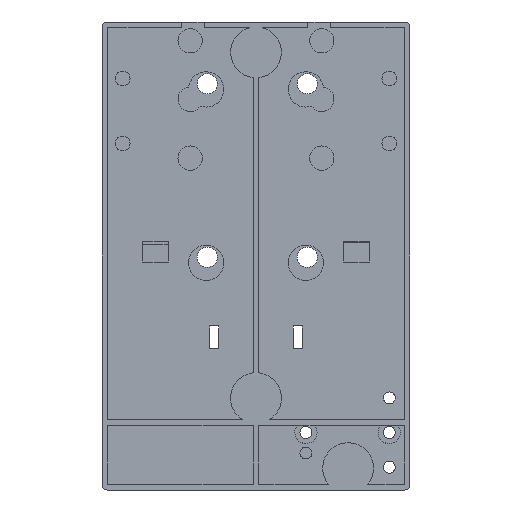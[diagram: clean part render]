
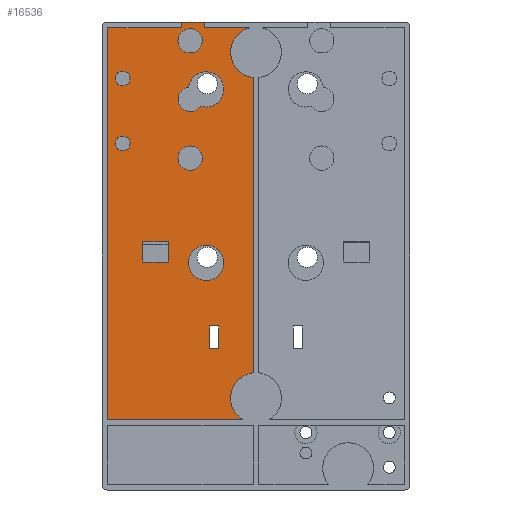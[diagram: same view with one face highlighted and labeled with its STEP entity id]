
A CAD part, front view. The second image highlights one B-rep face of the part: STEP entity #16536.
In plain terms, the highlighted planar face has unit normal (0, -1, 0).
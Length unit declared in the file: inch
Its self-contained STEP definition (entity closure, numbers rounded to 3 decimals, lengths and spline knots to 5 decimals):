
#633=FACE_BOUND('',#2281,.T.);
#634=FACE_BOUND('',#2282,.T.);
#635=FACE_BOUND('',#2283,.T.);
#636=FACE_BOUND('',#2284,.T.);
#637=FACE_BOUND('',#2285,.T.);
#638=FACE_BOUND('',#2286,.T.);
#639=FACE_BOUND('',#2287,.T.);
#640=FACE_BOUND('',#2288,.T.);
#924=CIRCLE('',#17667,0.1925);
#926=CIRCLE('',#17670,0.1925);
#945=CIRCLE('',#17694,0.277);
#950=CIRCLE('',#17702,0.277);
#954=CIRCLE('',#17708,0.132);
#955=CIRCLE('',#17709,0.08);
#956=CIRCLE('',#17710,0.08);
#957=CIRCLE('',#17711,0.132);
#958=CIRCLE('',#17712,0.132);
#1343=FACE_OUTER_BOUND('',#2280,.T.);
#2280=EDGE_LOOP('',(#11137,#11138,#11139,#11140,#11141,#11142,#11143,#11144,
#11145,#11146));
#2281=EDGE_LOOP('',(#11147,#11148,#11149,#11150));
#2282=EDGE_LOOP('',(#11151,#11152,#11153,#11154));
#2283=EDGE_LOOP('',(#11155,#11156));
#2284=EDGE_LOOP('',(#11157));
#2285=EDGE_LOOP('',(#11158));
#2286=EDGE_LOOP('',(#11159));
#2287=EDGE_LOOP('',(#11160));
#2288=EDGE_LOOP('',(#11161));
#3287=LINE('',#23302,#5086);
#3290=LINE('',#23308,#5089);
#3293=LINE('',#23314,#5092);
#3296=LINE('',#23318,#5095);
#3323=LINE('',#23374,#5122);
#3327=LINE('',#23381,#5126);
#3330=LINE('',#23387,#5129);
#3332=LINE('',#23390,#5131);
#3366=LINE('',#23553,#5165);
#3367=LINE('',#23555,#5166);
#3368=LINE('',#23557,#5167);
#3369=LINE('',#23559,#5168);
#3370=LINE('',#23561,#5169);
#3371=LINE('',#23563,#5170);
#3372=LINE('',#23564,#5171);
#3373=LINE('',#23565,#5172);
#5086=VECTOR('',#18924,0.3937);
#5089=VECTOR('',#18929,0.3937);
#5092=VECTOR('',#18934,0.3937);
#5095=VECTOR('',#18939,0.3937);
#5122=VECTOR('',#18984,0.3937);
#5126=VECTOR('',#18990,0.3937);
#5129=VECTOR('',#18995,0.3937);
#5131=VECTOR('',#18999,0.3937);
#5165=VECTOR('',#19159,0.3937);
#5166=VECTOR('',#19160,0.3937);
#5167=VECTOR('',#19161,0.3937);
#5168=VECTOR('',#19162,0.3937);
#5169=VECTOR('',#19163,0.3937);
#5170=VECTOR('',#19164,0.3937);
#5171=VECTOR('',#19165,0.3937);
#5172=VECTOR('',#19166,0.3937);
#6885=VERTEX_POINT('',#23299);
#6886=VERTEX_POINT('',#23301);
#6888=VERTEX_POINT('',#23307);
#6890=VERTEX_POINT('',#23313);
#6909=VERTEX_POINT('',#23371);
#6910=VERTEX_POINT('',#23373);
#6912=VERTEX_POINT('',#23379);
#6914=VERTEX_POINT('',#23385);
#6929=VERTEX_POINT('',#23434);
#6931=VERTEX_POINT('',#23437);
#6933=VERTEX_POINT('',#23443);
#6961=VERTEX_POINT('',#23508);
#6963=VERTEX_POINT('',#23512);
#6972=VERTEX_POINT('',#23534);
#6974=VERTEX_POINT('',#23537);
#6980=VERTEX_POINT('',#23552);
#6981=VERTEX_POINT('',#23554);
#6982=VERTEX_POINT('',#23556);
#6983=VERTEX_POINT('',#23558);
#6984=VERTEX_POINT('',#23560);
#6985=VERTEX_POINT('',#23562);
#6986=VERTEX_POINT('',#23567);
#6987=VERTEX_POINT('',#23569);
#6988=VERTEX_POINT('',#23571);
#6989=VERTEX_POINT('',#23573);
#8499=EDGE_CURVE('',#6886,#6885,#3287,.T.);
#8502=EDGE_CURVE('',#6888,#6886,#3290,.T.);
#8505=EDGE_CURVE('',#6890,#6888,#3293,.T.);
#8508=EDGE_CURVE('',#6885,#6890,#3296,.T.);
#8535=EDGE_CURVE('',#6910,#6909,#3323,.T.);
#8539=EDGE_CURVE('',#6909,#6912,#3327,.T.);
#8542=EDGE_CURVE('',#6912,#6914,#3330,.T.);
#8544=EDGE_CURVE('',#6914,#6910,#3332,.T.);
#8567=EDGE_CURVE('',#6931,#6929,#924,.T.);
#8570=EDGE_CURVE('',#6933,#6933,#926,.T.);
#8605=EDGE_CURVE('',#6961,#6963,#945,.T.);
#8615=EDGE_CURVE('',#6974,#6972,#950,.T.);
#8622=EDGE_CURVE('',#6980,#6963,#3366,.F.);
#8623=EDGE_CURVE('',#6981,#6980,#3367,.T.);
#8624=EDGE_CURVE('',#6982,#6981,#3368,.T.);
#8625=EDGE_CURVE('',#6982,#6983,#3369,.T.);
#8626=EDGE_CURVE('',#6984,#6983,#3370,.F.);
#8627=EDGE_CURVE('',#6985,#6984,#3371,.F.);
#8628=EDGE_CURVE('',#6985,#6974,#3372,.T.);
#8629=EDGE_CURVE('',#6972,#6961,#3373,.T.);
#8630=EDGE_CURVE('',#6929,#6931,#954,.T.);
#8631=EDGE_CURVE('',#6986,#6986,#955,.T.);
#8632=EDGE_CURVE('',#6987,#6987,#956,.T.);
#8633=EDGE_CURVE('',#6988,#6988,#957,.T.);
#8634=EDGE_CURVE('',#6989,#6989,#958,.T.);
#11137=ORIENTED_EDGE('',*,*,#8605,.T.);
#11138=ORIENTED_EDGE('',*,*,#8622,.F.);
#11139=ORIENTED_EDGE('',*,*,#8623,.F.);
#11140=ORIENTED_EDGE('',*,*,#8624,.F.);
#11141=ORIENTED_EDGE('',*,*,#8625,.T.);
#11142=ORIENTED_EDGE('',*,*,#8626,.F.);
#11143=ORIENTED_EDGE('',*,*,#8627,.F.);
#11144=ORIENTED_EDGE('',*,*,#8628,.T.);
#11145=ORIENTED_EDGE('',*,*,#8615,.T.);
#11146=ORIENTED_EDGE('',*,*,#8629,.T.);
#11147=ORIENTED_EDGE('',*,*,#8499,.T.);
#11148=ORIENTED_EDGE('',*,*,#8508,.T.);
#11149=ORIENTED_EDGE('',*,*,#8505,.T.);
#11150=ORIENTED_EDGE('',*,*,#8502,.T.);
#11151=ORIENTED_EDGE('',*,*,#8535,.T.);
#11152=ORIENTED_EDGE('',*,*,#8539,.T.);
#11153=ORIENTED_EDGE('',*,*,#8542,.T.);
#11154=ORIENTED_EDGE('',*,*,#8544,.T.);
#11155=ORIENTED_EDGE('',*,*,#8567,.T.);
#11156=ORIENTED_EDGE('',*,*,#8630,.T.);
#11157=ORIENTED_EDGE('',*,*,#8570,.T.);
#11158=ORIENTED_EDGE('',*,*,#8631,.T.);
#11159=ORIENTED_EDGE('',*,*,#8632,.T.);
#11160=ORIENTED_EDGE('',*,*,#8633,.T.);
#11161=ORIENTED_EDGE('',*,*,#8634,.T.);
#15902=PLANE('',#17707);
#16536=ADVANCED_FACE('',(#1343,#633,#634,#635,#636,#637,#638,#639,#640),
#15902,.F.);
#17667=AXIS2_PLACEMENT_3D('',#23438,#19052,#19053);
#17670=AXIS2_PLACEMENT_3D('',#23444,#19059,#19060);
#17694=AXIS2_PLACEMENT_3D('',#23514,#19123,#19124);
#17702=AXIS2_PLACEMENT_3D('',#23538,#19144,#19145);
#17707=AXIS2_PLACEMENT_3D('',#23551,#19157,#19158);
#17708=AXIS2_PLACEMENT_3D('',#23566,#19167,#19168);
#17709=AXIS2_PLACEMENT_3D('',#23568,#19169,#19170);
#17710=AXIS2_PLACEMENT_3D('',#23570,#19171,#19172);
#17711=AXIS2_PLACEMENT_3D('',#23572,#19173,#19174);
#17712=AXIS2_PLACEMENT_3D('',#23574,#19175,#19176);
#18924=DIRECTION('',(0.,0.,-1.));
#18929=DIRECTION('',(1.,0.,0.));
#18934=DIRECTION('',(0.,0.,1.));
#18939=DIRECTION('',(-1.,0.,0.));
#18984=DIRECTION('',(1.,0.,0.));
#18990=DIRECTION('',(0.,0.,-1.));
#18995=DIRECTION('',(-1.,0.,0.));
#18999=DIRECTION('',(0.,0.,1.));
#19052=DIRECTION('center_axis',(0.,1.,0.));
#19053=DIRECTION('ref_axis',(1.,0.,0.));
#19059=DIRECTION('center_axis',(0.,1.,0.));
#19060=DIRECTION('ref_axis',(1.,0.,0.));
#19123=DIRECTION('center_axis',(0.,1.,0.));
#19124=DIRECTION('ref_axis',(-1.,0.,0.));
#19144=DIRECTION('center_axis',(0.,1.,0.));
#19145=DIRECTION('ref_axis',(-1.,0.,0.));
#19157=DIRECTION('center_axis',(0.,1.,0.));
#19158=DIRECTION('ref_axis',(0.,0.,1.));
#19159=DIRECTION('',(-1.,0.,0.));
#19160=DIRECTION('',(0.,0.,-1.));
#19161=DIRECTION('',(1.,0.,0.));
#19162=DIRECTION('',(0.,0.,-1.));
#19163=DIRECTION('',(-1.,0.,0.));
#19164=DIRECTION('',(0.,0.,-1.));
#19165=DIRECTION('',(1.,0.,0.));
#19166=DIRECTION('',(0.,0.,1.));
#19167=DIRECTION('center_axis',(0.,1.,0.));
#19168=DIRECTION('ref_axis',(-1.,0.,0.));
#19169=DIRECTION('center_axis',(0.,1.,0.));
#19170=DIRECTION('ref_axis',(1.,0.,0.));
#19171=DIRECTION('center_axis',(0.,1.,0.));
#19172=DIRECTION('ref_axis',(1.,0.,0.));
#19173=DIRECTION('center_axis',(0.,1.,0.));
#19174=DIRECTION('ref_axis',(-1.,0.,0.));
#19175=DIRECTION('center_axis',(0.,1.,0.));
#19176=DIRECTION('ref_axis',(-1.,0.,0.));
#23299=CARTESIAN_POINT('',(-0.9575,0.1225,-0.3465));
#23301=CARTESIAN_POINT('',(-0.9575,0.1225,-0.1245));
#23302=CARTESIAN_POINT('',(-0.9575,0.1225,-0.20275));
#23307=CARTESIAN_POINT('',(-1.2325,0.1225,-0.1245));
#23308=CARTESIAN_POINT('',(-0.61625,0.1225,-0.1245));
#23313=CARTESIAN_POINT('',(-1.2325,0.1225,-0.3465));
#23314=CARTESIAN_POINT('',(-1.2325,0.1225,-0.31375));
#23318=CARTESIAN_POINT('',(-0.47875,0.1225,-0.3465));
#23371=CARTESIAN_POINT('',(-0.404,0.1225,-1.043));
#23373=CARTESIAN_POINT('',(-0.504,0.1225,-1.043));
#23374=CARTESIAN_POINT('',(-0.252,0.1225,-1.043));
#23379=CARTESIAN_POINT('',(-0.404,0.1225,-1.293));
#23381=CARTESIAN_POINT('',(-0.404,0.1225,-0.662));
#23385=CARTESIAN_POINT('',(-0.504,0.1225,-1.293));
#23387=CARTESIAN_POINT('',(-0.202,0.1225,-1.293));
#23390=CARTESIAN_POINT('',(-0.504,0.1225,-0.787));
#23434=CARTESIAN_POINT('',(-0.60742,0.1225,1.35292));
#23437=CARTESIAN_POINT('',(-0.7348,0.1225,1.55593));
#23438=CARTESIAN_POINT('Origin',(-0.5435,0.1225,1.5345));
#23443=CARTESIAN_POINT('',(-0.736,0.1225,-0.3555));
#23444=CARTESIAN_POINT('Origin',(-0.5435,0.1225,-0.3555));
#23508=CARTESIAN_POINT('',(-0.03125,0.1225,1.66377));
#23512=CARTESIAN_POINT('',(-0.07192,0.1225,2.2065));
#23514=CARTESIAN_POINT('Origin',(0.,0.1225,1.939));
#23534=CARTESIAN_POINT('',(-0.03125,0.1225,-1.55327));
#23537=CARTESIAN_POINT('',(-0.14256,0.1225,-2.066));
#23538=CARTESIAN_POINT('Origin',(0.,0.1225,-1.8285));
#23551=CARTESIAN_POINT('Origin',(0.,0.1225,-0.281));
#23552=CARTESIAN_POINT('',(-0.565,0.1225,2.2065));
#23553=CARTESIAN_POINT('',(-0.839,0.1225,2.2065));
#23554=CARTESIAN_POINT('',(-0.565,0.1225,2.269));
#23555=CARTESIAN_POINT('',(-0.565,0.1225,2.269));
#23556=CARTESIAN_POINT('',(-0.81,0.1225,2.269));
#23557=CARTESIAN_POINT('',(-1.244,0.1225,2.269));
#23558=CARTESIAN_POINT('',(-0.81,0.1225,2.2065));
#23559=CARTESIAN_POINT('',(-0.81,0.1225,2.269));
#23560=CARTESIAN_POINT('',(-1.6155,0.1225,2.2065));
#23561=CARTESIAN_POINT('',(-0.839,0.1225,2.2065));
#23562=CARTESIAN_POINT('',(-1.6155,0.1225,-2.066));
#23563=CARTESIAN_POINT('',(-1.6155,0.1225,-1.556));
#23564=CARTESIAN_POINT('',(-0.01563,0.1225,-2.066));
#23565=CARTESIAN_POINT('',(-0.03125,0.1225,0.96275));
#23566=CARTESIAN_POINT('Origin',(-0.718,0.1225,1.425));
#23567=CARTESIAN_POINT('',(-1.533,0.1225,0.946));
#23568=CARTESIAN_POINT('Origin',(-1.453,0.1225,0.946));
#23569=CARTESIAN_POINT('',(-1.533,0.1225,1.653));
#23570=CARTESIAN_POINT('Origin',(-1.453,0.1225,1.653));
#23571=CARTESIAN_POINT('',(-0.586,0.1225,2.064));
#23572=CARTESIAN_POINT('Origin',(-0.718,0.1225,2.064));
#23573=CARTESIAN_POINT('',(-0.586,0.1225,0.786));
#23574=CARTESIAN_POINT('Origin',(-0.718,0.1225,0.786));
